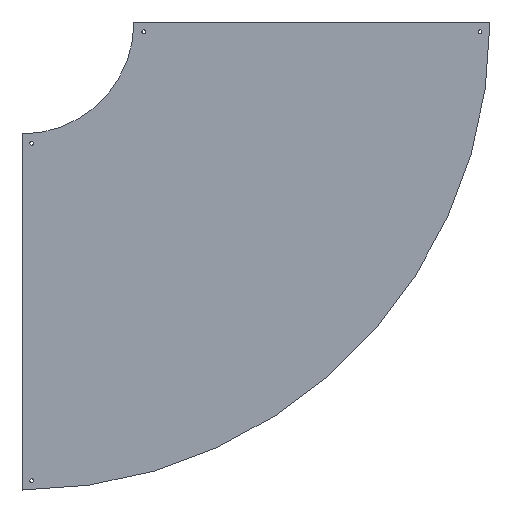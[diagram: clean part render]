
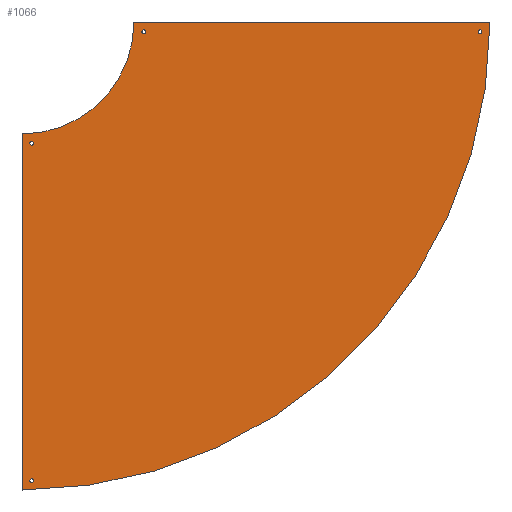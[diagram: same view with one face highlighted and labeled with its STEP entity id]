
A CAD part, top view. The second image highlights one B-rep face of the part: STEP entity #1066.
In plain terms, the highlighted planar face has unit normal (0, 0, 1).
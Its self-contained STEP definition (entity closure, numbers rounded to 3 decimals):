
#49=FACE_BOUND('',#205,.T.);
#50=FACE_BOUND('',#206,.T.);
#51=FACE_BOUND('',#207,.T.);
#52=FACE_BOUND('',#208,.T.);
#63=CIRCLE('',#1156,298.5);
#64=CIRCLE('',#1157,1251.5);
#65=CIRCLE('',#1158,5.);
#66=CIRCLE('',#1159,5.);
#67=CIRCLE('',#1160,5.);
#68=CIRCLE('',#1161,5.);
#69=CIRCLE('',#1162,5.);
#70=CIRCLE('',#1163,5.);
#71=CIRCLE('',#1164,5.);
#72=CIRCLE('',#1165,5.);
#134=FACE_OUTER_BOUND('',#204,.T.);
#204=EDGE_LOOP('',(#826,#827,#828,#829,#830,#831,#832,#833));
#205=EDGE_LOOP('',(#834,#835));
#206=EDGE_LOOP('',(#836,#837));
#207=EDGE_LOOP('',(#838,#839));
#208=EDGE_LOOP('',(#840,#841));
#297=LINE('',#1670,#405);
#298=LINE('',#1673,#406);
#306=LINE('',#1708,#414);
#307=LINE('',#1713,#415);
#308=LINE('',#1715,#416);
#309=LINE('',#1717,#417);
#405=VECTOR('',#1333,304.8);
#406=VECTOR('',#1336,304.8);
#414=VECTOR('',#1368,304.8);
#415=VECTOR('',#1373,304.8);
#416=VECTOR('',#1374,304.8);
#417=VECTOR('',#1375,304.8);
#494=VERTEX_POINT('',#1663);
#497=VERTEX_POINT('',#1668);
#498=VERTEX_POINT('',#1672);
#513=VERTEX_POINT('',#1706);
#514=VERTEX_POINT('',#1710);
#515=VERTEX_POINT('',#1712);
#516=VERTEX_POINT('',#1714);
#517=VERTEX_POINT('',#1716);
#518=VERTEX_POINT('',#1719);
#519=VERTEX_POINT('',#1720);
#520=VERTEX_POINT('',#1723);
#521=VERTEX_POINT('',#1724);
#522=VERTEX_POINT('',#1727);
#523=VERTEX_POINT('',#1728);
#524=VERTEX_POINT('',#1731);
#525=VERTEX_POINT('',#1732);
#609=EDGE_CURVE('',#497,#494,#297,.T.);
#610=EDGE_CURVE('',#494,#498,#298,.T.);
#628=EDGE_CURVE('',#513,#497,#306,.T.);
#629=EDGE_CURVE('',#513,#514,#63,.T.);
#630=EDGE_CURVE('',#514,#515,#307,.T.);
#631=EDGE_CURVE('',#515,#516,#308,.T.);
#632=EDGE_CURVE('',#516,#517,#309,.T.);
#633=EDGE_CURVE('',#517,#498,#64,.T.);
#634=EDGE_CURVE('',#518,#519,#65,.T.);
#635=EDGE_CURVE('',#519,#518,#66,.T.);
#636=EDGE_CURVE('',#520,#521,#67,.T.);
#637=EDGE_CURVE('',#521,#520,#68,.T.);
#638=EDGE_CURVE('',#522,#523,#69,.T.);
#639=EDGE_CURVE('',#523,#522,#70,.T.);
#640=EDGE_CURVE('',#524,#525,#71,.T.);
#641=EDGE_CURVE('',#525,#524,#72,.T.);
#826=ORIENTED_EDGE('',*,*,#609,.F.);
#827=ORIENTED_EDGE('',*,*,#628,.F.);
#828=ORIENTED_EDGE('',*,*,#629,.T.);
#829=ORIENTED_EDGE('',*,*,#630,.T.);
#830=ORIENTED_EDGE('',*,*,#631,.T.);
#831=ORIENTED_EDGE('',*,*,#632,.T.);
#832=ORIENTED_EDGE('',*,*,#633,.T.);
#833=ORIENTED_EDGE('',*,*,#610,.F.);
#834=ORIENTED_EDGE('',*,*,#634,.T.);
#835=ORIENTED_EDGE('',*,*,#635,.T.);
#836=ORIENTED_EDGE('',*,*,#636,.T.);
#837=ORIENTED_EDGE('',*,*,#637,.T.);
#838=ORIENTED_EDGE('',*,*,#638,.T.);
#839=ORIENTED_EDGE('',*,*,#639,.T.);
#840=ORIENTED_EDGE('',*,*,#640,.T.);
#841=ORIENTED_EDGE('',*,*,#641,.T.);
#1018=PLANE('',#1155);
#1066=ADVANCED_FACE('',(#134,#49,#50,#51,#52),#1018,.T.);
#1155=AXIS2_PLACEMENT_3D('',#1709,#1369,#1370);
#1156=AXIS2_PLACEMENT_3D('',#1711,#1371,#1372);
#1157=AXIS2_PLACEMENT_3D('',#1718,#1376,#1377);
#1158=AXIS2_PLACEMENT_3D('',#1721,#1378,#1379);
#1159=AXIS2_PLACEMENT_3D('',#1722,#1380,#1381);
#1160=AXIS2_PLACEMENT_3D('',#1725,#1382,#1383);
#1161=AXIS2_PLACEMENT_3D('',#1726,#1384,#1385);
#1162=AXIS2_PLACEMENT_3D('',#1729,#1386,#1387);
#1163=AXIS2_PLACEMENT_3D('',#1730,#1388,#1389);
#1164=AXIS2_PLACEMENT_3D('',#1733,#1390,#1391);
#1165=AXIS2_PLACEMENT_3D('',#1734,#1392,#1393);
#1333=DIRECTION('',(1.,0.,0.));
#1336=DIRECTION('',(0.,-1.,0.));
#1368=DIRECTION('',(0.,1.,0.));
#1369=DIRECTION('center_axis',(0.,0.,1.));
#1370=DIRECTION('ref_axis',(0.,-1.,0.));
#1371=DIRECTION('center_axis',(0.,0.,-1.));
#1372=DIRECTION('ref_axis',(1.,0.,0.));
#1373=DIRECTION('',(-1.,0.,0.));
#1374=DIRECTION('',(0.,-1.,0.));
#1375=DIRECTION('',(1.,0.,0.));
#1376=DIRECTION('center_axis',(0.,0.,1.));
#1377=DIRECTION('ref_axis',(1.,0.,0.));
#1378=DIRECTION('center_axis',(0.,0.,-1.));
#1379=DIRECTION('ref_axis',(1.,0.,0.));
#1380=DIRECTION('center_axis',(0.,0.,-1.));
#1381=DIRECTION('ref_axis',(1.,0.,0.));
#1382=DIRECTION('center_axis',(0.,0.,-1.));
#1383=DIRECTION('ref_axis',(1.,0.,0.));
#1384=DIRECTION('center_axis',(0.,0.,-1.));
#1385=DIRECTION('ref_axis',(1.,0.,0.));
#1386=DIRECTION('center_axis',(0.,0.,-1.));
#1387=DIRECTION('ref_axis',(1.,0.,0.));
#1388=DIRECTION('center_axis',(0.,0.,-1.));
#1389=DIRECTION('ref_axis',(1.,0.,0.));
#1390=DIRECTION('center_axis',(0.,0.,-1.));
#1391=DIRECTION('ref_axis',(1.,0.,0.));
#1392=DIRECTION('center_axis',(0.,0.,-1.));
#1393=DIRECTION('ref_axis',(1.,0.,0.));
#1663=CARTESIAN_POINT('',(476.5,776.,1.5));
#1668=CARTESIAN_POINT('',(-476.5,776.,1.5));
#1670=CARTESIAN_POINT('',(-476.5,776.,1.5));
#1672=CARTESIAN_POINT('',(476.5,775.,1.5));
#1673=CARTESIAN_POINT('',(476.5,776.,1.5));
#1706=CARTESIAN_POINT('',(-476.5,775.,1.5));
#1708=CARTESIAN_POINT('',(-476.5,776.,1.5));
#1709=CARTESIAN_POINT('Origin',(-476.5,776.,1.5));
#1710=CARTESIAN_POINT('',(-775.,476.5,1.5));
#1711=CARTESIAN_POINT('Origin',(-775.,775.,1.5));
#1712=CARTESIAN_POINT('',(-776.,476.5,1.5));
#1713=CARTESIAN_POINT('',(-775.,476.5,1.5));
#1714=CARTESIAN_POINT('',(-776.,-476.5,1.5));
#1715=CARTESIAN_POINT('',(-776.,-476.5,1.5));
#1716=CARTESIAN_POINT('',(-775.,-476.5,1.5));
#1717=CARTESIAN_POINT('',(-775.,-476.5,1.5));
#1718=CARTESIAN_POINT('Origin',(-775.,775.,1.5));
#1719=CARTESIAN_POINT('',(-745.,451.5,1.5));
#1720=CARTESIAN_POINT('',(-755.,451.5,1.5));
#1721=CARTESIAN_POINT('Origin',(-750.,451.5,1.5));
#1722=CARTESIAN_POINT('Origin',(-750.,451.5,1.5));
#1723=CARTESIAN_POINT('',(-745.,-451.5,1.5));
#1724=CARTESIAN_POINT('',(-755.,-451.5,1.5));
#1725=CARTESIAN_POINT('Origin',(-750.,-451.5,1.5));
#1726=CARTESIAN_POINT('Origin',(-750.,-451.5,1.5));
#1727=CARTESIAN_POINT('',(-445.,750.,1.5));
#1728=CARTESIAN_POINT('',(-455.,750.,1.5));
#1729=CARTESIAN_POINT('Origin',(-450.,750.,1.5));
#1730=CARTESIAN_POINT('Origin',(-450.,750.,1.5));
#1731=CARTESIAN_POINT('',(455.,750.,1.5));
#1732=CARTESIAN_POINT('',(445.,750.,1.5));
#1733=CARTESIAN_POINT('Origin',(450.,750.,1.5));
#1734=CARTESIAN_POINT('Origin',(450.,750.,1.5));
